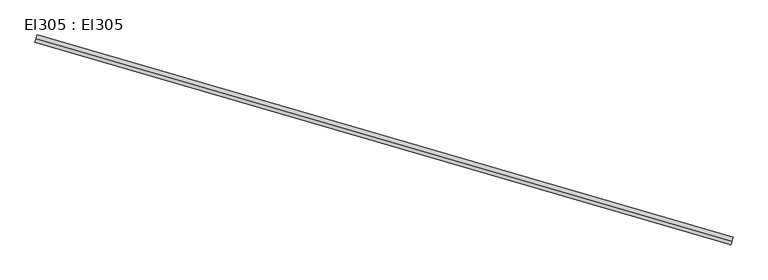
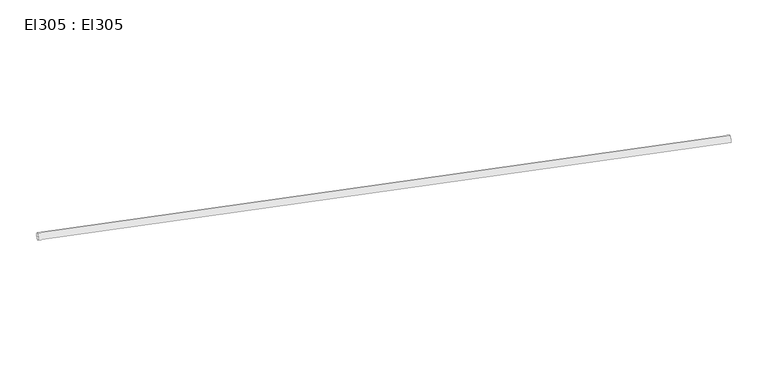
"""IFC4 building model written with IfcOpenShell, lengths in millimetres: cable carrier segment geometry, El305 : El305."""

from ifc_helpers import new_model, si_unit, point, frame, frame_2d, origin, place, context, project, spatial, circle_curve, trimmed, segment, composite_curve, outline, extrude, source, transform, mapped, element, save


def el305_el305_18866c5c(model_context):
    return source(origin(), model_context, "Body", "SweptSolid", [
        extrude(outline(composite_curve([segment(trimmed(circle_curve(frame_2d((0.0, -9.5)), 9.5), [point((0.0, -19.0))], [point((0.0, 0.0))], False, "CARTESIAN"), True, "CONTINUOUS"), segment(trimmed(circle_curve(frame_2d((0.0, -9.5)), 9.5), [point((0.0, 0.0))], [point((0.0, -19.0))], False, "CARTESIAN"), True, "CONTINUOUS")], self_intersect=False)), frame((27350.3137894, 14279.2775558, 2959.5), z_axis=(-0.9602314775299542, 0.2792051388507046, 0.0), x_axis=(-0.2792051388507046, -0.9602314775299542, 0.0)), (0.0, 0.0, 1.0), 1744.4),
    ])


if __name__ == "__main__":
    model = new_model("IFC4")
    model_context = context("Model", 3, world=origin())
    ifc_project = project(units=[si_unit("LENGTHUNIT", "METRE", prefix="MILLI")], contexts=[model_context])
    site = spatial("IfcSite", under=ifc_project)
    building = spatial("IfcBuilding", under=site)
    placement = place(None, origin())
    el305_el305_shape = el305_el305_18866c5c(model_context)
    element("IfcCableCarrierSegment", 1, ObjectType="El305 : El305", at=placement, inside=building, context=model_context, shape_type="MappedRepresentation", body=[
        mapped(el305_el305_shape, transform((0.0, 0.0, 0.0), x_axis=(1.0, 0.0, 0.0), y_axis=(0.0, 1.0, 0.0), z_axis=(0.0, 0.0, 1.0))),
    ])
    save(model, "model.ifc")
